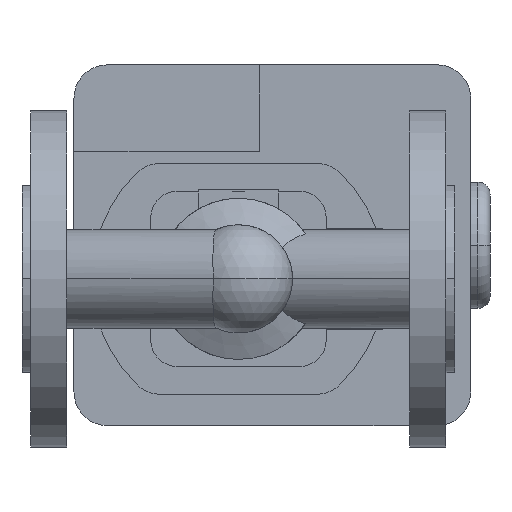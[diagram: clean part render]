
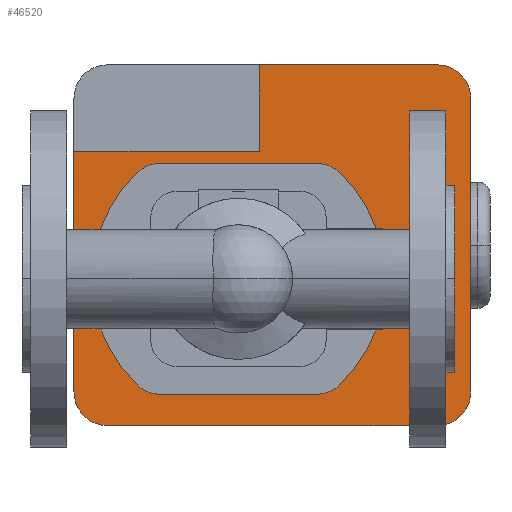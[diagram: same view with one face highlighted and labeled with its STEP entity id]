
A CAD part, front view. The second image highlights one B-rep face of the part: STEP entity #46520.
In plain terms, the highlighted planar face has unit normal (0, -1, 0).
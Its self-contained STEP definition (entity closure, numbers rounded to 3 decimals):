
#34980=CARTESIAN_POINT('',(149.96,313.5,11.216));
#34990=VERTEX_POINT('',#34980);
#35020=CARTESIAN_POINT('',(140.,313.5,0.));
#35030=DIRECTION('',(0.,1.,0.));
#35040=DIRECTION('',(0.,0.,1.));
#35050=AXIS2_PLACEMENT_3D('',#35020,#35030,#35040);
#35060=CIRCLE('',#35050,15.);
#35070=CARTESIAN_POINT('',(149.96,313.5,-11.216));
#35080=VERTEX_POINT('',#35070);
#35090=EDGE_CURVE('',#34990,#35080,#35060,.T.);
#37810=CARTESIAN_POINT('',(132.116,313.5,44.128));
#37820=VERTEX_POINT('',#37810);
#37850=CARTESIAN_POINT('',(90.,313.5,0.));
#37860=DIRECTION('',(0.,1.,0.));
#37870=DIRECTION('',(0.69,0.,0.723));
#37880=AXIS2_PLACEMENT_3D('',#37850,#37860,#37870);
#37890=CIRCLE('',#37880,61.);
#37900=EDGE_CURVE('',#37820,#34990,#37890,.T.);
#38290=CARTESIAN_POINT('',(30.04,313.5,-11.216));
#38300=VERTEX_POINT('',#38290);
#38330=CARTESIAN_POINT('',(40.,313.5,0.));
#38340=DIRECTION('',(0.,1.,0.));
#38350=DIRECTION('',(0.,0.,-1.));
#38360=AXIS2_PLACEMENT_3D('',#38330,#38340,#38350);
#38370=CIRCLE('',#38360,15.);
#38380=CARTESIAN_POINT('',(30.04,313.5,11.216));
#38390=VERTEX_POINT('',#38380);
#38400=EDGE_CURVE('',#38300,#38390,#38370,.T.);
#39390=CARTESIAN_POINT('',(47.884,313.5,-44.128));
#39400=VERTEX_POINT('',#39390);
#39430=CARTESIAN_POINT('',(90.,313.5,0.));
#39440=DIRECTION('',(0.,1.,0.));
#39450=DIRECTION('',(-0.69,0.,-0.723));
#39460=AXIS2_PLACEMENT_3D('',#39430,#39440,#39450);
#39470=CIRCLE('',#39460,61.);
#39480=EDGE_CURVE('',#39400,#38300,#39470,.T.);
#41790=CARTESIAN_POINT('',(186.6,313.5,75.));
#41800=VERTEX_POINT('',#41790);
#41850=CARTESIAN_POINT('',(172.6,313.5,75.));
#41860=DIRECTION('',(0.,1.,0.));
#41870=DIRECTION('',(0.,0.,1.));
#41880=AXIS2_PLACEMENT_3D('',#41850,#41860,#41870);
#41890=CIRCLE('',#41880,14.);
#41900=CARTESIAN_POINT('',(172.6,313.5,89.));
#41910=VERTEX_POINT('',#41900);
#41920=EDGE_CURVE('',#41910,#41800,#41890,.T.);
#44740=CARTESIAN_POINT('',(172.6,313.5,-61.));
#44750=VERTEX_POINT('',#44740);
#44800=CARTESIAN_POINT('',(172.6,313.5,-47.));
#44810=DIRECTION('',(0.,1.,0.));
#44820=DIRECTION('',(1.,0.,0.));
#44830=AXIS2_PLACEMENT_3D('',#44800,#44810,#44820);
#44840=CIRCLE('',#44830,14.);
#44850=CARTESIAN_POINT('',(186.6,313.5,-47.));
#44860=VERTEX_POINT('',#44850);
#44870=EDGE_CURVE('',#44860,#44750,#44840,.T.);
#45180=CARTESIAN_POINT('',(90.,313.5,0.));
#45190=DIRECTION('',(0.,1.,0.));
#45200=DIRECTION('',(0.,0.,1.));
#45210=AXIS2_PLACEMENT_3D('',#45180,#45190,#45200);
#45220=PLANE('',#45210);
#45230=ORIENTED_EDGE('',*,*,#37900,.T.);
#45240=CARTESIAN_POINT('',(122.45,313.5,34.));
#45250=DIRECTION('',(0.,1.,0.));
#45260=DIRECTION('',(0.,0.,1.));
#45270=AXIS2_PLACEMENT_3D('',#45240,#45250,#45260);
#45280=CIRCLE('',#45270,14.);
#45290=CARTESIAN_POINT('',(122.45,313.5,48.));
#45300=VERTEX_POINT('',#45290);
#45310=EDGE_CURVE('',#45300,#37820,#45280,.T.);
#45320=ORIENTED_EDGE('',*,*,#45310,.T.);
#45330=CARTESIAN_POINT('',(73.775,313.5,48.));
#45340=DIRECTION('',(1.,0.,0.));
#45350=VECTOR('',#45340,1.);
#45360=LINE('',#45330,#45350);
#45370=CARTESIAN_POINT('',(57.55,313.5,48.));
#45380=VERTEX_POINT('',#45370);
#45390=EDGE_CURVE('',#45380,#45300,#45360,.T.);
#45400=ORIENTED_EDGE('',*,*,#45390,.T.);
#45410=CARTESIAN_POINT('',(57.55,313.5,34.));
#45420=DIRECTION('',(0.,1.,0.));
#45430=DIRECTION('',(-0.69,0.,0.723));
#45440=AXIS2_PLACEMENT_3D('',#45410,#45420,#45430);
#45450=CIRCLE('',#45440,14.);
#45460=CARTESIAN_POINT('',(47.884,313.5,44.128));
#45470=VERTEX_POINT('',#45460);
#45480=EDGE_CURVE('',#45470,#45380,#45450,.T.);
#45490=ORIENTED_EDGE('',*,*,#45480,.T.);
#45500=CARTESIAN_POINT('',(90.,313.5,0.));
#45510=DIRECTION('',(0.,1.,0.));
#45520=DIRECTION('',(-0.69,0.,-0.723));
#45530=AXIS2_PLACEMENT_3D('',#45500,#45510,#45520);
#45540=CIRCLE('',#45530,61.);
#45550=EDGE_CURVE('',#38390,#45470,#45540,.T.);
#45560=ORIENTED_EDGE('',*,*,#45550,.T.);
#45570=ORIENTED_EDGE('',*,*,#38400,.T.);
#45580=ORIENTED_EDGE('',*,*,#39480,.T.);
#45590=CARTESIAN_POINT('',(57.55,313.5,-34.));
#45600=DIRECTION('',(0.,1.,0.));
#45610=DIRECTION('',(0.,0.,-1.));
#45620=AXIS2_PLACEMENT_3D('',#45590,#45600,#45610);
#45630=CIRCLE('',#45620,14.);
#45640=CARTESIAN_POINT('',(57.55,313.5,-48.));
#45650=VERTEX_POINT('',#45640);
#45660=EDGE_CURVE('',#45650,#39400,#45630,.T.);
#45670=ORIENTED_EDGE('',*,*,#45660,.T.);
#45680=CARTESIAN_POINT('',(106.225,313.5,-48.));
#45690=DIRECTION('',(-1.,0.,0.));
#45700=VECTOR('',#45690,1.);
#45710=LINE('',#45680,#45700);
#45720=CARTESIAN_POINT('',(122.45,313.5,-48.));
#45730=VERTEX_POINT('',#45720);
#45740=EDGE_CURVE('',#45730,#45650,#45710,.T.);
#45750=ORIENTED_EDGE('',*,*,#45740,.T.);
#45760=CARTESIAN_POINT('',(122.45,313.5,-34.));
#45770=DIRECTION('',(0.,1.,0.));
#45780=DIRECTION('',(0.69,0.,-0.723));
#45790=AXIS2_PLACEMENT_3D('',#45760,#45770,#45780);
#45800=CIRCLE('',#45790,14.);
#45810=CARTESIAN_POINT('',(132.116,313.5,-44.128));
#45820=VERTEX_POINT('',#45810);
#45830=EDGE_CURVE('',#45820,#45730,#45800,.T.);
#45840=ORIENTED_EDGE('',*,*,#45830,.T.);
#45850=CARTESIAN_POINT('',(90.,313.5,0.));
#45860=DIRECTION('',(0.,1.,0.));
#45870=DIRECTION('',(0.69,0.,0.723));
#45880=AXIS2_PLACEMENT_3D('',#45850,#45860,#45870);
#45890=CIRCLE('',#45880,61.);
#45900=EDGE_CURVE('',#35080,#45820,#45890,.T.);
#45910=ORIENTED_EDGE('',*,*,#45900,.T.);
#45920=ORIENTED_EDGE('',*,*,#35090,.T.);
#45930=EDGE_LOOP('',(#45920,#45910,#45840,#45750,#45670,#45580,#45570,
#45560,#45490,#45400,#45320,#45230));
#45940=FACE_BOUND('',#45930,.T.);
#45950=CARTESIAN_POINT('',(98.6,313.5,26.5));
#45960=DIRECTION('',(0.,0.,-1.));
#45970=VECTOR('',#45960,1.);
#45980=LINE('',#45950,#45970);
#45990=CARTESIAN_POINT('',(98.6,313.5,89.));
#46000=VERTEX_POINT('',#45990);
#46010=CARTESIAN_POINT('',(98.6,313.5,53.));
#46020=VERTEX_POINT('',#46010);
#46030=EDGE_CURVE('',#46000,#46020,#45980,.T.);
#46040=ORIENTED_EDGE('',*,*,#46030,.T.);
#46050=CARTESIAN_POINT('',(35.6,313.5,89.));
#46060=DIRECTION('',(1.,0.,0.));
#46070=VECTOR('',#46060,1.);
#46080=LINE('',#46050,#46070);
#46090=EDGE_CURVE('',#46000,#41910,#46080,.T.);
#46100=ORIENTED_EDGE('',*,*,#46090,.F.);
#46110=ORIENTED_EDGE('',*,*,#41920,.F.);
#46120=CARTESIAN_POINT('',(186.6,313.5,75.));
#46130=DIRECTION('',(0.,0.,-1.));
#46140=VECTOR('',#46130,1.);
#46150=LINE('',#46120,#46140);
#46160=EDGE_CURVE('',#41800,#44860,#46150,.T.);
#46170=ORIENTED_EDGE('',*,*,#46160,.F.);
#46180=ORIENTED_EDGE('',*,*,#44870,.F.);
#46190=CARTESIAN_POINT('',(172.6,313.5,-61.));
#46200=DIRECTION('',(-1.,0.,0.));
#46210=VECTOR('',#46200,1.);
#46220=LINE('',#46190,#46210);
#46230=CARTESIAN_POINT('',(35.6,313.5,-61.));
#46240=VERTEX_POINT('',#46230);
#46250=EDGE_CURVE('',#44750,#46240,#46220,.T.);
#46260=ORIENTED_EDGE('',*,*,#46250,.F.);
#46270=CARTESIAN_POINT('',(35.6,313.5,-47.));
#46280=DIRECTION('',(0.,1.,0.));
#46290=DIRECTION('',(0.,0.,-1.));
#46300=AXIS2_PLACEMENT_3D('',#46270,#46280,#46290);
#46310=CIRCLE('',#46300,14.);
#46320=CARTESIAN_POINT('',(21.6,313.5,-47.));
#46330=VERTEX_POINT('',#46320);
#46340=EDGE_CURVE('',#46240,#46330,#46310,.T.);
#46350=ORIENTED_EDGE('',*,*,#46340,.F.);
#46360=CARTESIAN_POINT('',(21.6,313.5,-47.));
#46370=DIRECTION('',(0.,0.,1.));
#46380=VECTOR('',#46370,1.);
#46390=LINE('',#46360,#46380);
#46400=CARTESIAN_POINT('',(21.6,313.5,53.));
#46410=VERTEX_POINT('',#46400);
#46420=EDGE_CURVE('',#46330,#46410,#46390,.T.);
#46430=ORIENTED_EDGE('',*,*,#46420,.F.);
#46440=CARTESIAN_POINT('',(55.3,313.5,53.));
#46450=DIRECTION('',(-1.,0.,0.));
#46460=VECTOR('',#46450,1.);
#46470=LINE('',#46440,#46460);
#46480=EDGE_CURVE('',#46020,#46410,#46470,.T.);
#46490=ORIENTED_EDGE('',*,*,#46480,.T.);
#46500=EDGE_LOOP('',(#46490,#46430,#46350,#46260,#46180,#46170,#46110,
#46100,#46040));
#46510=FACE_OUTER_BOUND('',#46500,.T.);
#46520=ADVANCED_FACE('',(#45940,#46510),#45220,.F.);
